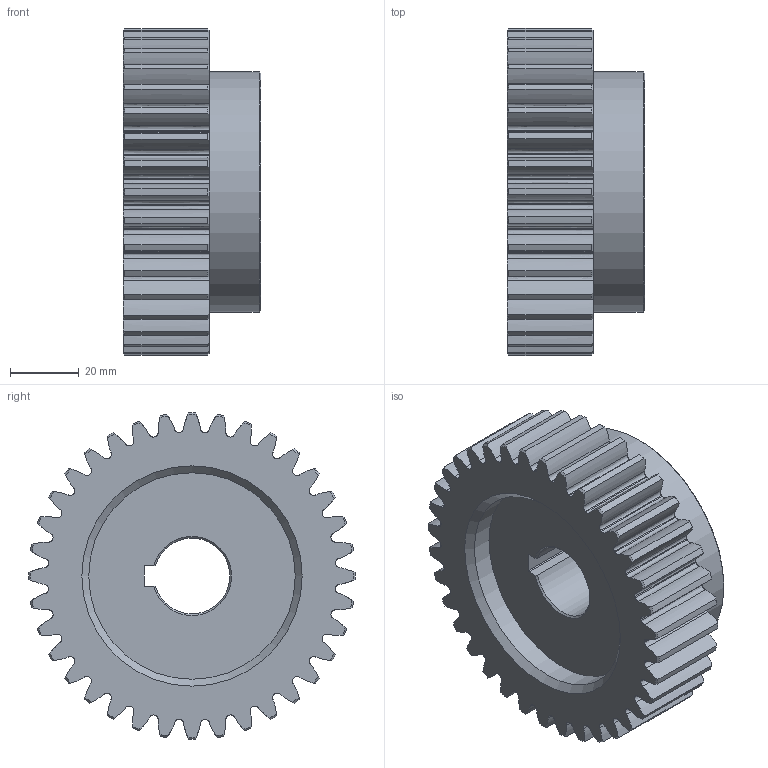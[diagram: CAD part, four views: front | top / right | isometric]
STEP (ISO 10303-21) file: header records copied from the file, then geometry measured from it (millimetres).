
FILE_DESCRIPTION(('STEP AP214'), '1');
FILE_NAME('GS2,5-T36D22 - Øåñòåðíÿ', '2018-06-14T09:00:15', (''), (''), 'ASCON STEP Converter 1.3', 'ASCON Math Kernel', '');
FILE_SCHEMA(('AUTOMOTIVE_DESIGN { 1 0 10303 214 3 1 1}'));
Length unit declared in the file: millimetre
Products named in the file (1): GS2,5-T36D22
Bounding box: 40 x 95 x 95 mm (x, y, z)
Volume: 179791.7 mm3; surface area: 32455.7 mm2
Topology: 1 solids, 1 shells, 304 faces, 900 edges, 602 vertices
Faces by surface type: extrusion 144, cylinder 77, cone 76, plane 7
Full cylindrical faces by diameter (mm): 60 x1, 70 x1
Entity records: 15527 total; most frequent: CARTESIAN_POINT 5425, ORIENTED_EDGE 1788, DIRECTION 1154, EDGE_CURVE 894, VERTEX_POINT 598, B_SPLINE_CURVE_WITH_KNOTS 580, AXIS2_PLACEMENT_3D 391, VECTOR 372
